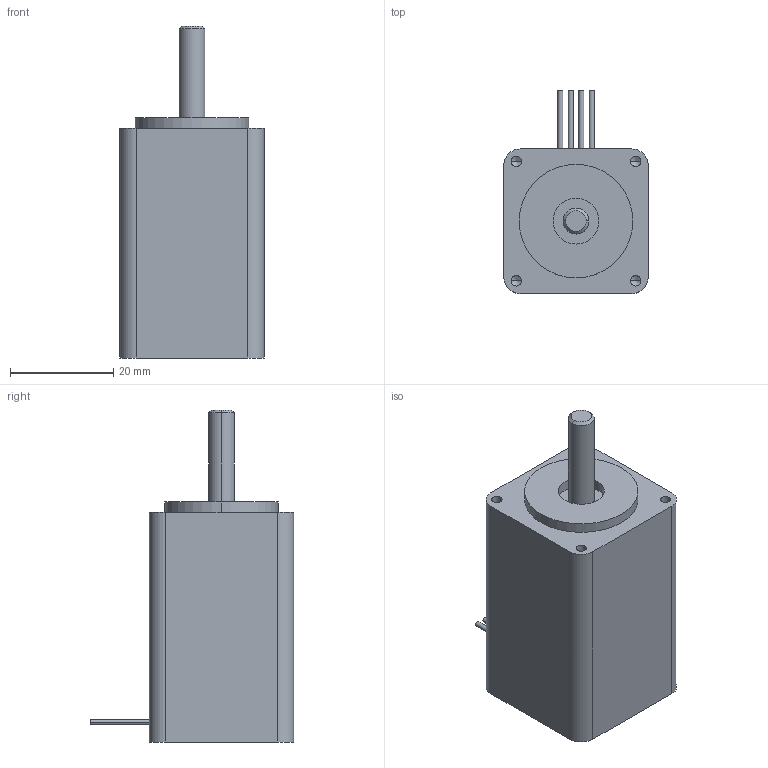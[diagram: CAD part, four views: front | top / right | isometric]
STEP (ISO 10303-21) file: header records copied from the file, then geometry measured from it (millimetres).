
FILE_DESCRIPTION((''),'2;1');
FILE_NAME('C:\Documents and Settings\rbadgerow\Desktop\webmodelmain\web step 3d\211-18 052605\211-18 s.stp','2005-05-27T09:47:25',('rbadgerow'),(''),'Autodesk Inventor 9','Autodesk Inventor 9','');
FILE_SCHEMA(('AUTOMOTIVE_DESIGN { 1 0 10303 214 1 1 1 1 }'));
Length unit declared in the file: inch
Products named in the file (1): 211-18 s
Bounding box: 27.94 x 39.37 x 64.26 mm (x, y, z)
Volume: 35320.1 mm3; surface area: 7002.2 mm2
Topology: 1 solids, 1 shells, 52 faces, 116 edges, 70 vertices
Faces by surface type: cylinder 20, bspline 16, plane 14, cone 2
Entity records: 1635 total; most frequent: CARTESIAN_POINT 503, DIRECTION 240, ORIENTED_EDGE 216, EDGE_CURVE 108, AXIS2_PLACEMENT_3D 95, VERTEX_POINT 70, EDGE_LOOP 64, CIRCLE 58
